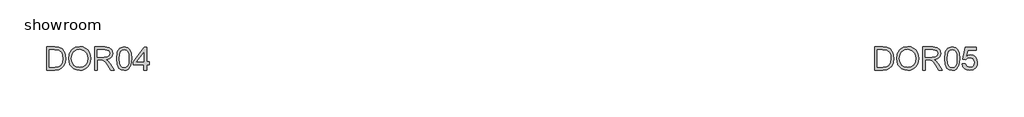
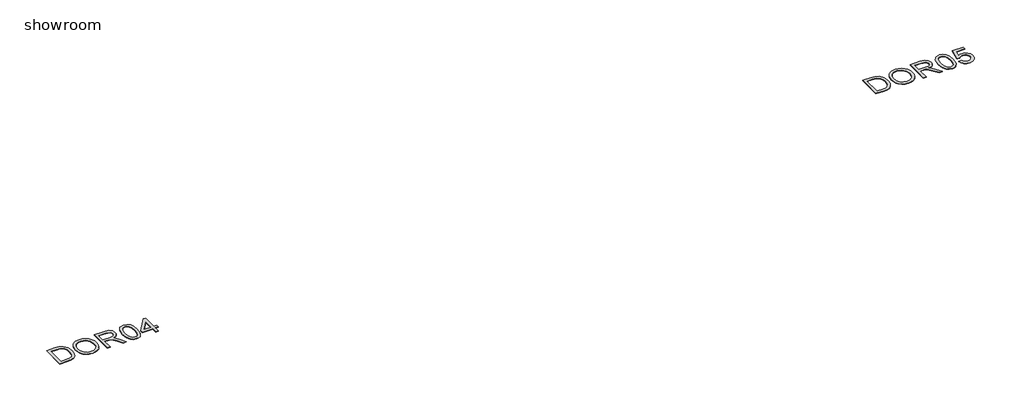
# One storey, part 4 of 4: 2 proxies.
"""IFC4 building model written with IfcOpenShell, lengths in millimetres."""

from ifc_helpers import new_model, si_unit, origin, origin_with_axes, place, context, project, spatial, polyline, outline, extrude, element, save

model = new_model("IFC4")

# Units and contexts
model_context = context("Model", 3, world=origin())
ifc_project = project(units=[si_unit("LENGTHUNIT", "METRE", prefix="MILLI")], contexts=[model_context])

# Site, building, storey
site = spatial("IfcSite", under=ifc_project)
building = spatial("IfcBuilding", under=site)
storey = spatial("IfcBuildingStorey", under=building, Name="showroom", Elevation=0.0)

# Proxies
placement = place(None, origin())
element("IfcBuildingElementProxy", 1, Name="100mm Arial", ObjectType="100mm Arial", at=placement, inside=storey, context=model_context, shape_type="SweptSolid", body=[
    extrude(outline(polyline([(9011.8123559, -24.8979193), (9011.8123559, 75.5583908), (9046.4668398, 75.5583908), (9064.3949557, 74.1113883), (9079.1592865, 66.9254267), (9091.0541377, 49.7576002), (9095.0027377, 25.869796), (9092.3294619, 5.5994981), (9085.4623313, -9.0299426), (9076.2898069, -18.1411534), (9064.2845911, -23.1811367), (9048.1345716, -24.8979193), (9011.8123559, -24.8979193)]), holes=[polyline([(9024.3693947, -12.3408806), (9046.5894672, -12.3408806), (9062.7517495, -10.5259961), (9072.0714267, -5.4001736), (9079.7111095, 7.0710261), (9082.445699, 26.0659997), (9081.1059954, 39.75121), (9077.0868846, 49.8557021), (9064.0515992, 60.9902638), (9046.2461106, 63.0013521), (9024.3693947, 63.0013521), (9024.3693947, -12.3408806)])]), origin_with_axes(), (0.0, 0.0, 1.0), 2.0),
    extrude(outline(polyline([(9107.5597765, 24.0058606), (9110.9075027, 46.2198017), (9120.9506811, 63.0258775), (9136.285229, 73.6024849), (9155.5070632, 77.1280207), (9168.68337, 75.4725517), (9180.4985134, 70.5061448), (9190.3087, 62.5782878), (9197.4701361, 52.0384686), (9201.8479319, 39.3955907), (9203.3071971, 25.1585575), (9201.7712898, 10.7314519), (9197.1635678, -2.0892356), (9189.7384829, -12.6474489), (9179.7504867, -20.2871317), (9168.0365108, -24.9224448), (9155.4334868, -26.4675492), (9142.0548449, -24.7599636), (9130.1722565, -19.6372068), (9120.3865954, -11.562197), (9113.2987356, -0.9978524), (9107.5597765, 24.0058606)]), holes=[polyline([(9120.1168153, 23.8832332), (9122.6276099, 8.1685407), (9130.1599937, -3.8060183), (9141.4815622, -11.3843874), (9155.3599104, -13.9105104), (9169.4405938, -11.3598619), (9180.7805563, -3.7079164), (9188.2577578, 8.6345245), (9190.7501584, 25.2566593), (9186.4827272, 45.9806784), (9174.0115276, 59.7026768), (9155.5806396, 64.5709819), (9142.073239, 62.2257342), (9130.5891894, 55.189991), (9122.7349088, 42.6728061), (9120.1168153, 23.8832332)])]), origin_with_axes(), (0.0, 0.0, 1.0), 2.0),
    extrude(outline(polyline([(9220.5731254, -24.8979193), (9220.5731254, 75.5583908), (9263.8605735, 75.5583908), (9283.9591932, 72.8483268), (9294.9466021, 63.2588694), (9299.0546177, 48.065343), (9297.3531635, 38.1693174), (9292.2488008, 29.9655489), (9283.5882455, 23.9506783), (9271.2182134, 20.6213462), (9278.3551241, 15.2502691), (9288.5331927, 2.3253483), (9305.2840862, -24.8979193), (9290.6914337, -24.8979193), (9277.6193601, -4.0757984), (9268.1770556, 9.7075137), (9261.542917, 16.219025), (9255.5709659, 18.610258), (9248.2869024, 19.0517164), (9233.1301642, 19.0517164), (9233.1301642, -24.8979193), (9220.5731254, -24.8979193)]), holes=[polyline([(9233.1301642, 31.6087551), (9261.2363486, 31.6087551), (9275.5714837, 33.3868514), (9283.7139385, 39.0767596), (9286.497579, 47.5993592), (9281.1878155, 58.6603445), (9264.4001338, 63.0013521), (9233.1301642, 63.0013521), (9233.1301642, 31.6087551)])]), origin_with_axes(), (0.0, 0.0, 1.0), 2.0),
    extrude(outline(polyline([(9316.320546, 24.5208954), (9320.0116287, 53.4241574), (9330.9745122, 70.0892118), (9349.2827728, 75.5583908), (9363.9490017, 72.3210293), (9374.0780193, 62.9890893), (9379.9641312, 48.1266567), (9382.2449996, 24.5208954), (9378.5907051, -4.2597394), (9367.6646098, -20.961582), (9359.4332502, -25.0910574), (9349.2827728, -26.4675492), (9336.2352247, -24.0763162), (9326.3269363, -16.9026173), (9318.8221436, 0.0873995), (9316.320546, 24.5208954)]), holes=[polyline([(9328.8775848, 24.5454208), (9330.3491128, 4.7932234), (9334.7636967, -6.6387096), (9341.3365217, -12.0925602), (9349.2827728, -13.9105104), (9357.2290239, -12.0864288), (9363.8018489, -6.6141842), (9368.2164328, 4.8238802), (9369.6879608, 24.5454208), (9368.2654838, 43.8530942), (9363.9980526, 55.373932), (9357.4374904, 61.094497), (9349.13562, 63.0013521), (9341.275208, 61.3213576), (9334.9599005, 56.2813743), (9330.3981637, 44.0431666), (9328.8775848, 24.5454208)])]), origin_with_axes(), (0.0, 0.0, 1.0), 2.0),
    extrude(outline(polyline([(9434.0427845, -24.8979193), (9434.0427845, -1.3534716), (9388.523519, -1.3534716), (9388.523519, 11.2035671), (9437.1820442, 73.988761), (9446.5998233, 73.988761), (9446.5998233, 11.2035671), (9459.156862, 11.2035671), (9459.156862, -1.3534716), (9446.5998233, -1.3534716), (9446.5998233, -24.8979193), (9434.0427845, -24.8979193)]), holes=[polyline([(9434.0427845, 11.2035671), (9434.0427845, 50.0028549), (9403.9745628, 11.2035671), (9434.0427845, 11.2035671)])]), origin_with_axes(), (0.0, 0.0, 1.0), 2.0),
])
element("IfcBuildingElementProxy", 2, Name="100mm Arial", ObjectType="100mm Arial", at=placement, inside=storey, context=model_context, shape_type="SweptSolid", body=[
    extrude(outline(polyline([(12611.8123559, -24.8979193), (12611.8123559, 75.5583908), (12646.4668398, 75.5583908), (12664.3949557, 74.1113883), (12679.1592865, 66.9254267), (12691.0541377, 49.7576002), (12695.0027377, 25.869796), (12692.3294619, 5.5994981), (12685.4623313, -9.0299426), (12676.2898069, -18.1411534), (12664.2845911, -23.1811367), (12648.1345716, -24.8979193), (12611.8123559, -24.8979193)]), holes=[polyline([(12624.3693947, -12.3408806), (12646.5894672, -12.3408806), (12662.7517495, -10.5259961), (12672.0714267, -5.4001736), (12679.7111095, 7.0710261), (12682.445699, 26.0659997), (12681.1059954, 39.75121), (12677.0868846, 49.8557021), (12664.0515992, 60.9902638), (12646.2461106, 63.0013521), (12624.3693947, 63.0013521), (12624.3693947, -12.3408806)])]), origin_with_axes(), (0.0, 0.0, 1.0), 2.0),
    extrude(outline(polyline([(12707.5597765, 24.0058606), (12710.9075027, 46.2198017), (12720.9506811, 63.0258775), (12736.285229, 73.6024849), (12755.5070632, 77.1280207), (12768.68337, 75.4725517), (12780.4985134, 70.5061448), (12790.3087, 62.5782878), (12797.4701361, 52.0384686), (12801.8479319, 39.3955907), (12803.3071971, 25.1585575), (12801.7712898, 10.7314519), (12797.1635678, -2.0892356), (12789.7384829, -12.6474489), (12779.7504867, -20.2871317), (12768.0365108, -24.9224448), (12755.4334868, -26.4675492), (12742.0548449, -24.7599636), (12730.1722565, -19.6372068), (12720.3865954, -11.562197), (12713.2987356, -0.9978524), (12707.5597765, 24.0058606)]), holes=[polyline([(12720.1168153, 23.8832332), (12722.6276099, 8.1685407), (12730.1599937, -3.8060183), (12741.4815622, -11.3843874), (12755.3599104, -13.9105104), (12769.4405938, -11.3598619), (12780.7805563, -3.7079164), (12788.2577578, 8.6345245), (12790.7501584, 25.2566593), (12786.4827272, 45.9806784), (12774.0115276, 59.7026768), (12755.5806396, 64.5709819), (12742.073239, 62.2257342), (12730.5891894, 55.189991), (12722.7349088, 42.6728061), (12720.1168153, 23.8832332)])]), origin_with_axes(), (0.0, 0.0, 1.0), 2.0),
    extrude(outline(polyline([(12820.5731254, -24.8979193), (12820.5731254, 75.5583908), (12863.8605735, 75.5583908), (12883.9591932, 72.8483268), (12894.9466021, 63.2588694), (12899.0546177, 48.065343), (12897.3531635, 38.1693174), (12892.2488008, 29.9655489), (12883.5882455, 23.9506783), (12871.2182134, 20.6213462), (12878.3551241, 15.2502691), (12888.5331927, 2.3253483), (12905.2840862, -24.8979193), (12890.6914337, -24.8979193), (12877.6193601, -4.0757984), (12868.1770556, 9.7075137), (12861.542917, 16.219025), (12855.5709659, 18.610258), (12848.2869024, 19.0517164), (12833.1301642, 19.0517164), (12833.1301642, -24.8979193), (12820.5731254, -24.8979193)]), holes=[polyline([(12833.1301642, 31.6087551), (12861.2363486, 31.6087551), (12875.5714837, 33.3868514), (12883.7139385, 39.0767596), (12886.497579, 47.5993592), (12881.1878155, 58.6603445), (12864.4001338, 63.0013521), (12833.1301642, 63.0013521), (12833.1301642, 31.6087551)])]), origin_with_axes(), (0.0, 0.0, 1.0), 2.0),
    extrude(outline(polyline([(12916.320546, 24.5208954), (12920.0116287, 53.4241574), (12930.9745122, 70.0892118), (12949.2827728, 75.5583908), (12963.9490017, 72.3210293), (12974.0780193, 62.9890893), (12979.9641312, 48.1266567), (12982.2449996, 24.5208954), (12978.5907051, -4.2597394), (12967.6646098, -20.961582), (12959.4332502, -25.0910574), (12949.2827728, -26.4675492), (12936.2352247, -24.0763162), (12926.3269363, -16.9026173), (12918.8221436, 0.0873995), (12916.320546, 24.5208954)]), holes=[polyline([(12928.8775848, 24.5454208), (12930.3491128, 4.7932234), (12934.7636967, -6.6387096), (12941.3365217, -12.0925602), (12949.2827728, -13.9105104), (12957.2290239, -12.0864288), (12963.8018489, -6.6141842), (12968.2164328, 4.8238802), (12969.6879608, 24.5454208), (12968.2654838, 43.8530942), (12963.9980526, 55.373932), (12957.4374904, 61.094497), (12949.13562, 63.0013521), (12941.275208, 61.3213576), (12934.9599005, 56.2813743), (12930.3981637, 44.0431666), (12928.8775848, 24.5454208)])]), origin_with_axes(), (0.0, 0.0, 1.0), 2.0),
    extrude(outline(polyline([(12993.2324085, 1.7857881), (13005.7894473, 3.3554179), (13012.1170176, -9.5817656), (13025.2381421, -13.9105104), (13034.2389882, -12.4052599), (13040.9834915, -7.8895084), (13045.1957403, -0.8844221), (13046.5998233, 8.0888329), (13041.3391107, 23.0003164), (13034.7325632, 27.1022007), (13025.4343458, 28.4694954), (13014.4101487, 26.2867289), (13007.3590771, 20.6213462), (12994.8020383, 22.1909761), (13005.7894473, 73.988761), (13054.4479725, 73.988761), (13054.4479725, 61.4317222), (13015.9429903, 61.4317222), (13010.5719132, 33.7669962), (13019.5421025, 39.2116497), (13028.9414875, 41.0265342), (13040.6738575, 38.7763227), (13050.4135333, 32.0256881), (13056.9710298, 21.7372549), (13059.156862, 8.8736478), (13057.1886934, -3.6833909), (13051.2841873, -14.4255452), (13039.9779474, -23.4570482), (13025.1890911, -26.4675492), (13012.8558473, -24.533103), (13003.0303323, -18.7297645), (12996.2950261, -9.7319841), (12993.2324085, 1.7857881)])), origin_with_axes(), (0.0, 0.0, 1.0), 2.0),
])

save(model, "model.ifc")
